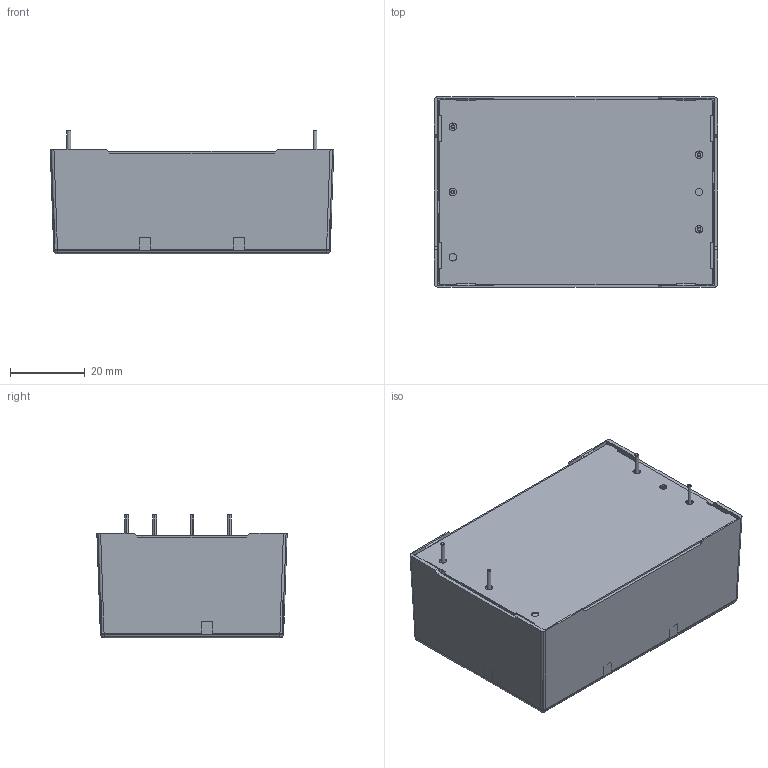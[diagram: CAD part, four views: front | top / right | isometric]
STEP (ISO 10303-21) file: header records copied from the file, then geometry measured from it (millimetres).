
FILE_DESCRIPTION((''),'2;1');
FILE_NAME('C:\Users\yaginuma\Documents\TRACO　STEPデータ送付関係\TMT301xx(ピン_シングル）\TMT301xx(pin_single)_stp\TMT301xx(pin_single) Ass.stp','2012-07-04T11:41:43',('yaginuma'),(''),'Autodesk Inventor 9','Autodesk Inventor 9','');
FILE_SCHEMA(('AUTOMOTIVE_DESIGN { 1 0 10303 214 1 1 1 1 }'));
Length unit declared in the file: millimetre
Products named in the file (4): TMT301xx(pin_single) Ass; 上ケース; 下ケース絶縁板; ピン
Assembly tree (6 placements, depth 2):
  TMT301xx(pin_single) Ass
    上ケース
    下ケース絶縁板
    ピン  x4
Bounding box: 76 x 51 x 33.1 mm (x, y, z)
Volume: 8440.4 mm3; surface area: 28419.7 mm2
Topology: 6 solids, 6 shells, 300 faces, 775 edges, 482 vertices
Faces by surface type: plane 141, cylinder 135, cone 16, bspline 4, sphere 4
Entity records: 8688 total; most frequent: CARTESIAN_POINT 1573, DIRECTION 1503, ORIENTED_EDGE 1450, EDGE_CURVE 725, VECTOR 511, LINE 511, AXIS2_PLACEMENT_3D 496, VERTEX_POINT 458
